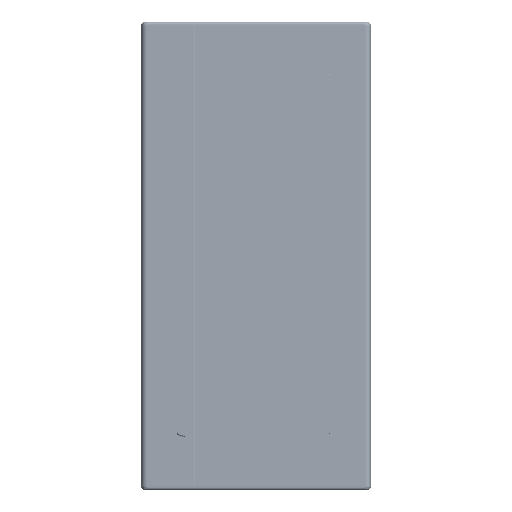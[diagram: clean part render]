
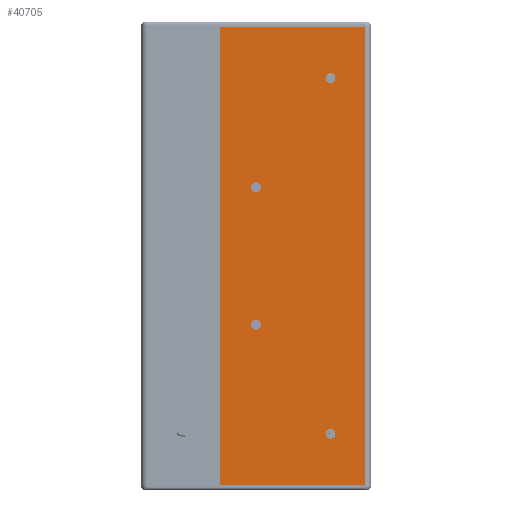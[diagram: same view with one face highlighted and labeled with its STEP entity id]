
A CAD part, front view. The second image highlights one B-rep face of the part: STEP entity #40705.
In plain terms, the highlighted planar face has unit normal (0, -1, 0).
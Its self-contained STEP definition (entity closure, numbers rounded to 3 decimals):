
#2518=DIRECTION('',(0.,0.,-1.));
#2519=VECTOR('',#2518,10.);
#2520=CARTESIAN_POINT('',(2.375,-0.433,10.));
#2521=LINE('',#2520,#2519);
#2667=DIRECTION('',(-1.,0.,0.));
#2668=VECTOR('',#2667,3.155);
#2669=CARTESIAN_POINT('',(2.375,-0.433,10.));
#2670=LINE('',#2669,#2668);
#2671=DIRECTION('',(1.,0.,0.));
#2672=VECTOR('',#2671,3.155);
#2673=CARTESIAN_POINT('',(-0.78,-0.433,0.));
#2674=LINE('',#2673,#2672);
#2675=CARTESIAN_POINT('',(0.,-0.433,6.5));
#2676=DIRECTION('',(0.,1.,0.));
#2677=DIRECTION('',(0.,0.,-1.));
#2678=AXIS2_PLACEMENT_3D('',#2675,#2676,#2677);
#2680=CARTESIAN_POINT('',(0.,-0.433,6.5));
#2681=DIRECTION('',(0.,1.,0.));
#2682=DIRECTION('',(0.,0.,1.));
#2683=AXIS2_PLACEMENT_3D('',#2680,#2681,#2682);
#2685=CARTESIAN_POINT('',(0.,-0.433,3.5));
#2686=DIRECTION('',(0.,1.,0.));
#2687=DIRECTION('',(0.,0.,-1.));
#2688=AXIS2_PLACEMENT_3D('',#2685,#2686,#2687);
#2690=CARTESIAN_POINT('',(0.,-0.433,3.5));
#2691=DIRECTION('',(0.,1.,0.));
#2692=DIRECTION('',(0.,0.,1.));
#2693=AXIS2_PLACEMENT_3D('',#2690,#2691,#2692);
#2695=CARTESIAN_POINT('',(1.625,-0.433,1.125));
#2696=DIRECTION('',(0.,1.,0.));
#2697=DIRECTION('',(0.,0.,-1.));
#2698=AXIS2_PLACEMENT_3D('',#2695,#2696,#2697);
#2700=CARTESIAN_POINT('',(1.625,-0.433,1.125));
#2701=DIRECTION('',(0.,1.,0.));
#2702=DIRECTION('',(0.,0.,1.));
#2703=AXIS2_PLACEMENT_3D('',#2700,#2701,#2702);
#2705=CARTESIAN_POINT('',(1.625,-0.433,8.875));
#2706=DIRECTION('',(0.,1.,0.));
#2707=DIRECTION('',(0.,0.,-1.));
#2708=AXIS2_PLACEMENT_3D('',#2705,#2706,#2707);
#2710=CARTESIAN_POINT('',(1.625,-0.433,8.875));
#2711=DIRECTION('',(0.,1.,0.));
#2712=DIRECTION('',(0.,0.,1.));
#2713=AXIS2_PLACEMENT_3D('',#2710,#2711,#2712);
#2729=DIRECTION('',(0.,0.,-1.));
#2730=VECTOR('',#2729,10.);
#2731=CARTESIAN_POINT('',(-0.78,-0.433,10.));
#2732=LINE('',#2731,#2730);
#29517=CARTESIAN_POINT('',(0.,-0.433,6.394));
#29518=CARTESIAN_POINT('',(0.,-0.433,6.607));
#29519=VERTEX_POINT('',#29517);
#29520=VERTEX_POINT('',#29518);
#29521=CARTESIAN_POINT('',(0.,-0.433,3.394));
#29522=CARTESIAN_POINT('',(0.,-0.433,3.607));
#29523=VERTEX_POINT('',#29521);
#29524=VERTEX_POINT('',#29522);
#29533=CARTESIAN_POINT('',(1.625,-0.433,1.019));
#29534=CARTESIAN_POINT('',(1.625,-0.433,1.232));
#29535=VERTEX_POINT('',#29533);
#29536=VERTEX_POINT('',#29534);
#29537=CARTESIAN_POINT('',(1.625,-0.433,8.769));
#29538=CARTESIAN_POINT('',(1.625,-0.433,8.982));
#29539=VERTEX_POINT('',#29537);
#29540=VERTEX_POINT('',#29538);
#35418=CARTESIAN_POINT('',(2.375,-0.433,10.));
#35419=CARTESIAN_POINT('',(-0.78,-0.433,10.));
#35420=VERTEX_POINT('',#35418);
#35421=VERTEX_POINT('',#35419);
#37003=CARTESIAN_POINT('',(-0.78,-0.433,0.));
#37004=CARTESIAN_POINT('',(2.375,-0.433,0.));
#37005=VERTEX_POINT('',#37003);
#37006=VERTEX_POINT('',#37004);
#40668=CARTESIAN_POINT('',(-2.5,-0.433,0.));
#40669=DIRECTION('',(0.,-1.,0.));
#40670=DIRECTION('',(1.,0.,0.));
#40671=AXIS2_PLACEMENT_3D('',#40668,#40669,#40670);
#40672=PLANE('',#40671);
#40674=ORIENTED_EDGE('',*,*,#40673,.F.);
#40675=ORIENTED_EDGE('',*,*,#40656,.F.);
#40676=ORIENTED_EDGE('',*,*,#40420,.T.);
#40678=ORIENTED_EDGE('',*,*,#40677,.F.);
#40679=EDGE_LOOP('',(#40674,#40675,#40676,#40678));
#40680=FACE_OUTER_BOUND('',#40679,.F.);
#40682=ORIENTED_EDGE('',*,*,#40681,.F.);
#40684=ORIENTED_EDGE('',*,*,#40683,.F.);
#40685=EDGE_LOOP('',(#40682,#40684));
#40686=FACE_BOUND('',#40685,.F.);
#40688=ORIENTED_EDGE('',*,*,#40687,.F.);
#40690=ORIENTED_EDGE('',*,*,#40689,.F.);
#40691=EDGE_LOOP('',(#40688,#40690));
#40692=FACE_BOUND('',#40691,.F.);
#40694=ORIENTED_EDGE('',*,*,#40693,.F.);
#40696=ORIENTED_EDGE('',*,*,#40695,.F.);
#40697=EDGE_LOOP('',(#40694,#40696));
#40698=FACE_BOUND('',#40697,.F.);
#40700=ORIENTED_EDGE('',*,*,#40699,.F.);
#40702=ORIENTED_EDGE('',*,*,#40701,.F.);
#40703=EDGE_LOOP('',(#40700,#40702));
#40704=FACE_BOUND('',#40703,.F.);
#40705=ADVANCED_FACE('',(#40680,#40686,#40692,#40698,#40704),#40672,.T.);
#2679=CIRCLE('',#2678,0.107);
#2684=CIRCLE('',#2683,0.107);
#2689=CIRCLE('',#2688,0.107);
#2694=CIRCLE('',#2693,0.107);
#2699=CIRCLE('',#2698,0.107);
#2704=CIRCLE('',#2703,0.107);
#2709=CIRCLE('',#2708,0.107);
#2714=CIRCLE('',#2713,0.107);
#40420=EDGE_CURVE('',#35420,#37006,#2521,.T.);
#40656=EDGE_CURVE('',#35420,#35421,#2670,.T.);
#40673=EDGE_CURVE('',#35421,#37005,#2732,.T.);
#40677=EDGE_CURVE('',#37005,#37006,#2674,.T.);
#40681=EDGE_CURVE('',#29519,#29520,#2679,.T.);
#40683=EDGE_CURVE('',#29520,#29519,#2684,.T.);
#40687=EDGE_CURVE('',#29523,#29524,#2689,.T.);
#40689=EDGE_CURVE('',#29524,#29523,#2694,.T.);
#40693=EDGE_CURVE('',#29535,#29536,#2699,.T.);
#40695=EDGE_CURVE('',#29536,#29535,#2704,.T.);
#40699=EDGE_CURVE('',#29539,#29540,#2709,.T.);
#40701=EDGE_CURVE('',#29540,#29539,#2714,.T.);
